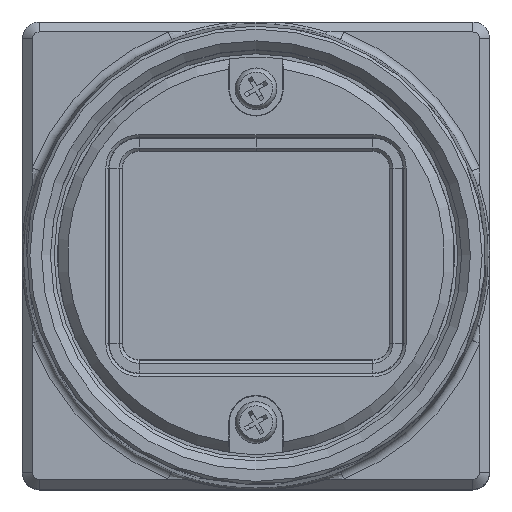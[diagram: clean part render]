
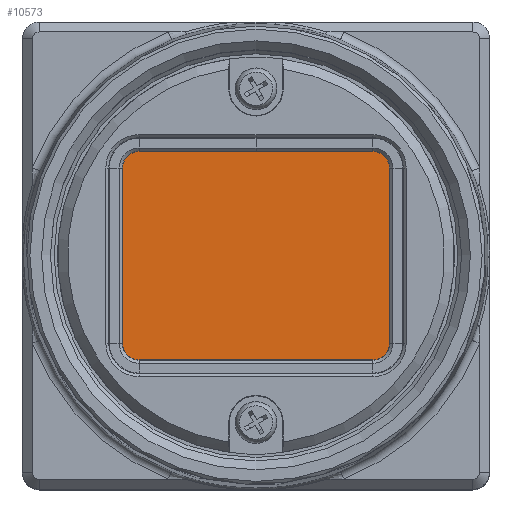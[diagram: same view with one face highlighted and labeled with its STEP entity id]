
A CAD part, top view. The second image highlights one B-rep face of the part: STEP entity #10573.
In plain terms, the highlighted planar face has unit normal (0, 0, 1).
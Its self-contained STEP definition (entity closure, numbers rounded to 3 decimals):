
#427 = VECTOR ( 'NONE', #104749, 1000. ) ;
#2700 = CARTESIAN_POINT ( 'NONE',  ( 0., 0., 6. ) ) ;
#9437 = LINE ( 'NONE', #13453, #39618 ) ;
#10488 = VECTOR ( 'NONE', #77667, 1000. ) ;
#10573 = ADVANCED_FACE ( 'NONE', ( #32463 ), #52780, .F. ) ;
#11173 = DIRECTION ( 'NONE',  ( 0., 0., -1. ) ) ;
#11924 = AXIS2_PLACEMENT_3D ( 'NONE', #2700, #11173, #77981 ) ;
#13038 = EDGE_CURVE ( 'NONE', #77373, #57201, #31961, .T. ) ;
#13453 = CARTESIAN_POINT ( 'NONE',  ( -9., 7.25, 6. ) ) ;
#14507 = EDGE_CURVE ( 'NONE', #31764, #77373, #26482, .T. ) ;
#19769 = ORIENTED_EDGE ( 'NONE', *, *, #14507, .T. ) ;
#20402 = DIRECTION ( 'NONE',  ( 1., 0., 0. ) ) ;
#26482 = LINE ( 'NONE', #102181, #10488 ) ;
#26519 = LINE ( 'NONE', #96667, #427 ) ;
#31764 = VERTEX_POINT ( 'NONE', #76030 ) ;
#31961 = LINE ( 'NONE', #36217, #81598 ) ;
#32463 = FACE_OUTER_BOUND ( 'NONE', #57841, .T. ) ;
#33108 = EDGE_CURVE ( 'NONE', #96245, #31764, #9437, .T. ) ;
#36217 = CARTESIAN_POINT ( 'NONE',  ( -9., -7.25, 6. ) ) ;
#39618 = VECTOR ( 'NONE', #71905, 1000. ) ;
#43619 = ORIENTED_EDGE ( 'NONE', *, *, #13038, .T. ) ;
#44102 = ORIENTED_EDGE ( 'NONE', *, *, #33108, .T. ) ;
#44193 = EDGE_CURVE ( 'NONE', #57201, #96245, #26519, .T. ) ;
#52780 = PLANE ( 'NONE',  #11924 ) ;
#57201 = VERTEX_POINT ( 'NONE', #96529 ) ;
#57841 = EDGE_LOOP ( 'NONE', ( #70289, #44102, #19769, #43619 ) ) ;
#62874 = CARTESIAN_POINT ( 'NONE',  ( -9., -7.25, 6. ) ) ;
#69192 = CARTESIAN_POINT ( 'NONE',  ( 9., 7.25, 6. ) ) ;
#70289 = ORIENTED_EDGE ( 'NONE', *, *, #44193, .T. ) ;
#71905 = DIRECTION ( 'NONE',  ( -1., 0., 0. ) ) ;
#76030 = CARTESIAN_POINT ( 'NONE',  ( -9., 7.25, 6. ) ) ;
#77373 = VERTEX_POINT ( 'NONE', #62874 ) ;
#77667 = DIRECTION ( 'NONE',  ( 0., -1., 0. ) ) ;
#77981 = DIRECTION ( 'NONE',  ( -1., 0., 0. ) ) ;
#81598 = VECTOR ( 'NONE', #20402, 1000. ) ;
#96245 = VERTEX_POINT ( 'NONE', #69192 ) ;
#96529 = CARTESIAN_POINT ( 'NONE',  ( 9., -7.25, 6. ) ) ;
#96667 = CARTESIAN_POINT ( 'NONE',  ( 9., -7.25, 6. ) ) ;
#102181 = CARTESIAN_POINT ( 'NONE',  ( -9., -7.25, 6. ) ) ;
#104749 = DIRECTION ( 'NONE',  ( 0., 1., 0. ) ) ;
